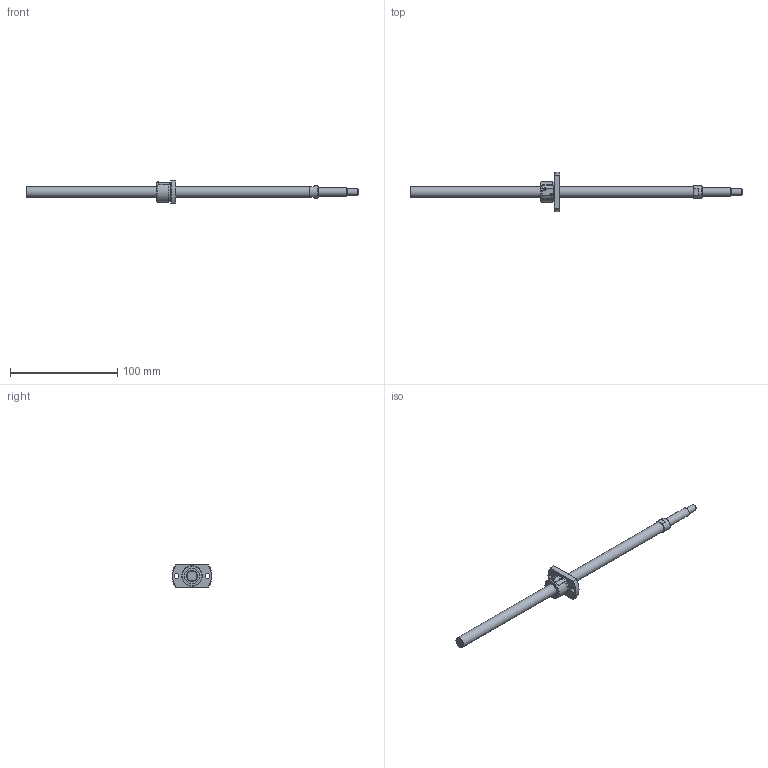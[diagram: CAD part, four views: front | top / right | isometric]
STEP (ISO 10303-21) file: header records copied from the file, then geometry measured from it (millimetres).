
FILE_DESCRIPTION( ( 'STEP AP214' ), '1' );
FILE_NAME( 'p:/temp/worker_8/1096_1344/app_80_12015063014110223619034260eae72_00_00_00_000/STEP/SG1001-262R310C3A1X_122__2_14.stp', ' ', ( ' ' ), ( ' ' ), 'PSStep 15.0.47', 'PARTsolutions', ' ' );
FILE_SCHEMA( ( 'AUTOMOTIVE_DESIGN { 1 0 10303 214 1 1 1 1 }' ) );
Length unit declared in the file: millimetre
Products named in the file (3): SG1001-262R310C3A1X(122); _SG1001-262R310C3A_shaft; _SG1001_nut
Assembly tree (2 placements, depth 2):
  SG1001-262R310C3A1X(122)
    _SG1001-262R310C3A_shaft
    _SG1001_nut
Bounding box: 310 x 36.86 x 21 mm (x, y, z)
Volume: 28746.6 mm3; surface area: 12943.6 mm2
Topology: 2 solids, 2 shells, 74 faces, 183 edges, 120 vertices
Faces by surface type: plane 35, cylinder 25, cone 13, torus 1
Full cylindrical faces by diameter (mm): 4.5 x2, 6 x1, 8 x1, 10 x2, 11.5 x1, 14 x2, 18.5 x1, 19 x1
Entity records: 2710 total; most frequent: CARTESIAN_POINT 421, DIRECTION 354, ORIENTED_EDGE 304, EDGE_CURVE 152, AXIS2_PLACEMENT_3D 147, VERTEX_POINT 110, EDGE_LOOP 108, FACE_OUTER_BOUND 86
